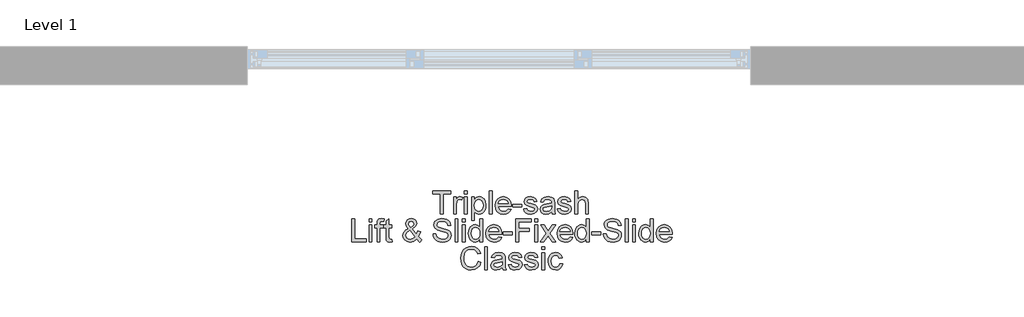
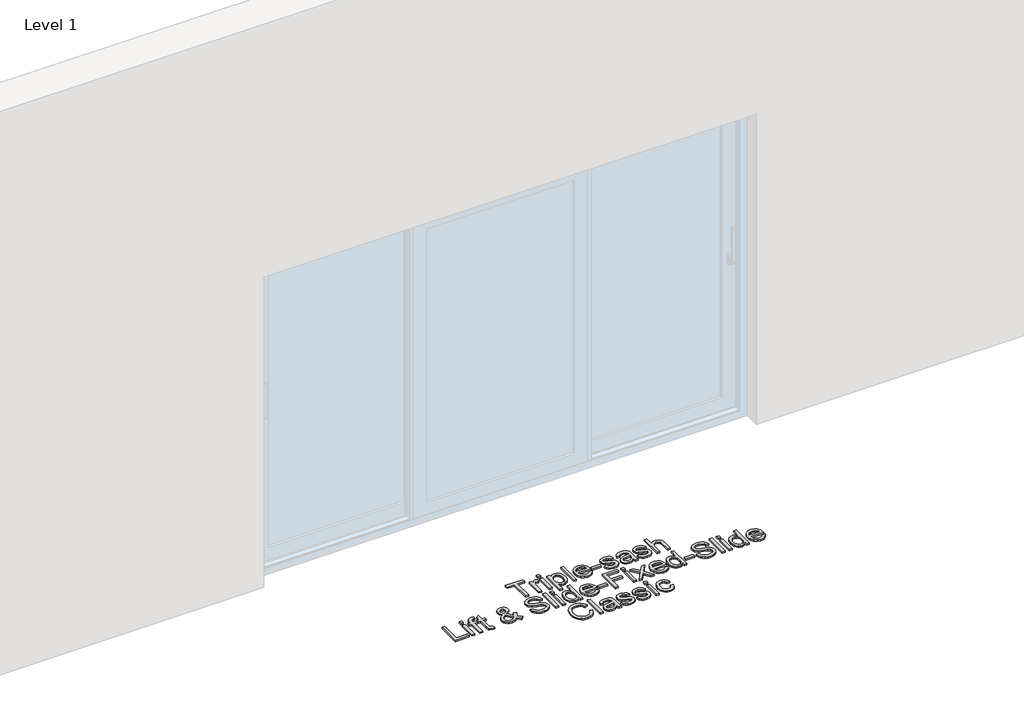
# One storey, part 13 of 17: 1 proxy.
"""IFC4 building model written with IfcOpenShell, lengths in millimetres."""

from ifc_helpers import new_model, si_unit, origin, origin_with_axes, place, context, project, spatial, polyline, outline, extrude, element, save

model = new_model("IFC4")

# Units and contexts
model_context = context("Model", 3, world=origin())
ifc_project = project(units=[si_unit("LENGTHUNIT", "METRE", prefix="MILLI")], contexts=[model_context])

# Site, building, storey
site = spatial("IfcSite", under=ifc_project)
building = spatial("IfcBuilding", under=site)
storey = spatial("IfcBuildingStorey", under=building, Name="Level 1", Elevation=0.0)

# Proxy
placement = place(None, origin())
element("IfcBuildingElementProxy", 1, Name="150mm Arial", ObjectType="150mm Arial", at=placement, inside=storey, context=model_context, shape_type="SweptSolid", body=[
    extrude(outline(polyline([(17344.4318001, -991.3626427), (17344.4318001, -859.5137356), (17294.98846, -859.5137356), (17294.98846, -840.6781775), (17412.7106984, -840.6781775), (17412.7106984, -859.5137356), (17363.2673583, -859.5137356), (17363.2673583, -991.3626427), (17344.4318001, -991.3626427)])), origin_with_axes(), (0.0, 0.0, 1.0), 10.0),
    extrude(outline(polyline([(17431.5462566, -991.3626427), (17431.5462566, -880.7037385), (17448.02737, -880.7037385), (17448.02737, -897.0744873), (17459.7260174, -881.9913255), (17471.4982413, -878.3492938), (17490.4073758, -884.1618293), (17484.1165937, -901.0476129), (17470.8728419, -897.1848519), (17460.2226581, -900.9004601), (17453.4352353, -911.2011559), (17450.3818147, -933.2004992), (17450.3818147, -991.3626427), (17431.5462566, -991.3626427)])), origin_with_axes(), (0.0, 0.0, 1.0), 10.0),
    extrude(outline(polyline([(17502.1795997, -859.5137356), (17502.1795997, -840.6781775), (17521.0151578, -840.6781775), (17521.0151578, -859.5137356), (17502.1795997, -859.5137356)])), origin_with_axes(), (0.0, 0.0, 1.0), 10.0),
    extrude(outline(polyline([(17502.1795997, -991.3626427), (17502.1795997, -880.7037385), (17521.0151578, -880.7037385), (17521.0151578, -991.3626427), (17502.1795997, -991.3626427)])), origin_with_axes(), (0.0, 0.0, 1.0), 10.0),
    extrude(outline(polyline([(17549.268495, -1033.7426485), (17549.268495, -880.7037385), (17568.1040532, -880.7037385), (17568.1040532, -899.1714147), (17581.1270758, -883.554824), (17598.7118352, -878.3492938), (17611.4497493, -880.1703096), (17622.5873767, -885.6333573), (17631.6556679, -894.4073429), (17638.1855733, -906.1611726), (17643.4462858, -935.187062), (17641.9609623, -951.2956949), (17637.5049916, -965.7028735), (17630.2209281, -977.6774325), (17620.251326, -986.4882062), (17608.6400505, -991.9098671), (17596.4309668, -993.7170875), (17580.0418239, -988.8794392), (17568.1040532, -976.6473629), (17568.1040532, -1033.7426485), (17549.268495, -1033.7426485)]), holes=[polyline([(17568.1040532, -936.9161074), (17570.1411997, -953.801891), (17576.2526394, -965.610903), (17585.2703468, -972.5638727), (17596.0262966, -974.8815293), (17606.9569904, -972.4810993), (17616.2046241, -965.2798092), (17622.5092018, -953.0385358), (17624.6107277, -935.5181558), (17622.5597855, -918.7243427), (17616.4069592, -906.7497838), (17607.4030473, -899.5760849), (17596.7988488, -897.1848519), (17586.1532636, -899.7278362), (17576.8044624, -907.3567891), (17570.2791555, -919.8325872), (17568.1040532, -936.9161074)])]), origin_with_axes(), (0.0, 0.0, 1.0), 10.0),
    extrude(outline(polyline([(17664.6362887, -991.3626427), (17664.6362887, -840.6781775), (17683.4718469, -840.6781775), (17683.4718469, -991.3626427), (17664.6362887, -991.3626427)])), origin_with_axes(), (0.0, 0.0, 1.0), 10.0),
    extrude(outline(polyline([(17789.2011323, -958.4004159), (17807.6688085, -960.7548607), (17801.0147429, -974.6699972), (17790.3967488, -985.0718606), (17776.0539495, -991.5557807), (17758.2254683, -993.7170875), (17736.1249574, -989.9876837), (17719.1196122, -978.7994725), (17708.2762904, -960.8790209), (17704.6618498, -936.9528956), (17708.3130786, -912.2220285), (17719.266765, -893.7267612), (17736.042184, -882.1936606), (17757.1586105, -878.3492938), (17777.617448, -882.1844636), (17793.9652041, -893.689973), (17804.6843658, -912.1484521), (17808.2574197, -936.842531), (17808.1470551, -941.9193025), (17723.497408, -941.9193025), (17726.7577621, -956.01838), (17734.3315327, -966.3834552), (17745.2622265, -972.7570108), (17758.5933503, -974.8815293), (17777.0610265, -970.9451919), (17789.2011323, -958.4004159)]), holes=[polyline([(17723.497408, -923.0837444), (17789.4218615, -923.0837444), (17786.8742787, -913.1325364), (17781.8802806, -906.0140198), (17770.899003, -899.3921439), (17757.0850341, -897.1848519), (17744.3885068, -898.946087), (17733.8900743, -904.2297921), (17726.5922152, -912.4657503), (17723.497408, -923.0837444)])]), origin_with_axes(), (0.0, 0.0, 1.0), 10.0),
    extrude(outline(polyline([(17817.6751987, -946.6281921), (17817.6751987, -927.7926339), (17876.536318, -927.7926339), (17876.536318, -946.6281921), (17817.6751987, -946.6281921)])), origin_with_axes(), (0.0, 0.0, 1.0), 10.0),
    extrude(outline(polyline([(17890.6629866, -958.4004159), (17909.4985447, -956.0459711), (17912.4691918, -964.1025868), (17918.217348, -970.025487), (17938.1933403, -974.8815293), (17957.3967805, -970.4301572), (17963.6507744, -959.9823085), (17962.0780789, -955.1814485), (17957.3599923, -951.5210226), (17937.9726112, -946.1499455), (17909.6089093, -936.9345015), (17897.2296802, -926.1739531), (17893.0174313, -910.9804267), (17896.4019457, -896.9457286), (17905.6357838, -886.2219685), (17917.6103427, -880.6485562), (17933.8155446, -878.3492938), (17956.7345929, -882.0465078), (17971.3027199, -892.0528981), (17977.777443, -908.9570758), (17958.9418849, -911.3115205), (17951.8601565, -900.9188542), (17935.2870726, -897.1848519), (17917.2608548, -900.7533073), (17911.8529895, -909.0674404), (17914.0970697, -914.5488821), (17921.1236158, -918.7059486), (17937.3472118, -922.7158624), (17964.9935437, -931.5818185), (17977.8326253, -941.6249969), (17982.4863326, -957.9957457), (17977.0232849, -976.0219635), (17961.2595414, -989.1001684), (17937.935823, -993.7170875), (17918.943915, -991.4914014), (17905.0839608, -984.8143432), (17895.8317286, -973.7594892), (17890.6629866, -958.4004159)])), origin_with_axes(), (0.0, 0.0, 1.0), 10.0),
    extrude(outline(polyline([(18074.3096786, -977.2359741), (18056.0443375, -990.0014793), (18035.8660101, -993.7170875), (18020.1252592, -991.4822043), (18008.5139837, -984.777555), (18001.3540804, -974.5964208), (17998.967446, -961.9320831), (18002.5726895, -947.0328623), (18012.0456509, -936.2171316), (18025.2342204, -930.0367141), (18041.5313928, -927.2040227), (18074.199314, -920.7292996), (18074.3096786, -916.5354449), (18073.0128945, -908.1293413), (18069.1225424, -902.6295054), (18060.4221332, -898.5460153), (18048.3004215, -897.1848519), (18029.2441342, -900.8084896), (18020.1574489, -913.6659653), (18001.3218907, -911.3115205), (18009.4704769, -892.9174208), (18025.8780139, -882.1384783), (18050.7284427, -878.3492938), (18073.5555205, -881.6970199), (18086.4497844, -890.1031235), (18092.2255317, -902.8870228), (18093.1452367, -919.3681362), (18093.1452367, -942.8022193), (18094.1017299, -975.5253228), (18097.8541263, -991.3626427), (18079.0185681, -991.3626427), (18074.3096786, -977.2359741)]), holes=[polyline([(18074.3096786, -939.5648578), (18043.9226258, -945.3406051), (18027.7174239, -948.3940256), (18020.3781781, -953.3604326), (18017.8030041, -960.6077079), (18023.4132045, -970.7980392), (18039.8759238, -974.8815293), (18058.9322112, -970.3749749), (18071.2194698, -959.4672737), (18074.199314, -944.8991467), (18074.3096786, -939.5648578)])]), origin_with_axes(), (0.0, 0.0, 1.0), 10.0),
    extrude(outline(polyline([(18111.9807949, -958.4004159), (18130.816353, -956.0459711), (18133.7870001, -964.1025868), (18139.5351563, -970.025487), (18159.5111486, -974.8815293), (18178.7145888, -970.4301572), (18184.9685827, -959.9823085), (18183.3958872, -955.1814485), (18178.6778006, -951.5210226), (18159.2904195, -946.1499455), (18130.9267176, -936.9345015), (18118.5474885, -926.1739531), (18114.3352396, -910.9804267), (18117.719754, -896.9457286), (18126.9535921, -886.2219685), (18138.928151, -880.6485562), (18155.1333529, -878.3492938), (18178.0524012, -882.0465078), (18192.6205282, -892.0528981), (18199.0952513, -908.9570758), (18180.2596932, -911.3115205), (18173.1779648, -900.9188542), (18156.6048809, -897.1848519), (18138.5786631, -900.7533073), (18133.1707978, -909.0674404), (18135.414878, -914.5488821), (18142.4414241, -918.7059486), (18158.6650201, -922.7158624), (18186.311352, -931.5818185), (18199.1504336, -941.6249969), (18203.8041409, -957.9957457), (18198.3410932, -976.0219635), (18182.5773497, -989.1001684), (18159.2536313, -993.7170875), (18140.2617232, -991.4914014), (18126.4017691, -984.8143432), (18117.1495369, -973.7594892), (18111.9807949, -958.4004159)])), origin_with_axes(), (0.0, 0.0, 1.0), 10.0),
    extrude(outline(polyline([(18224.9941438, -991.3626427), (18224.9941438, -840.6781775), (18243.8297019, -840.6781775), (18243.8297019, -896.0812059), (18258.5173906, -882.7822718), (18276.6079877, -878.3492938), (18297.7612024, -883.186942), (18310.6002841, -896.5594525), (18314.463045, -921.3179108), (18314.463045, -991.3626427), (18295.6274869, -991.3626427), (18295.6274869, -923.2676854), (18294.1283677, -911.4770674), (18289.6310103, -903.4020576), (18282.383735, -898.7391533), (18272.6348622, -897.1848519), (18257.2022125, -901.3787067), (18246.9015166, -912.7462603), (18243.8297019, -932.5750999), (18243.8297019, -991.3626427), (18224.9941438, -991.3626427)])), origin_with_axes(), (0.0, 0.0, 1.0), 10.0),
    extrude(outline(polyline([(16765.2383869, -1174.3248694), (16765.2383869, -1023.6404042), (16784.0739451, -1023.6404042), (16784.0739451, -1155.4893113), (16859.4161777, -1155.4893113), (16859.4161777, -1174.3248694), (16765.2383869, -1174.3248694)])), origin_with_axes(), (0.0, 0.0, 1.0), 10.0),
    extrude(outline(polyline([(16878.2517358, -1042.4759624), (16878.2517358, -1023.6404042), (16897.087294, -1023.6404042), (16897.087294, -1042.4759624), (16878.2517358, -1042.4759624)])), origin_with_axes(), (0.0, 0.0, 1.0), 10.0),
    extrude(outline(polyline([(16878.2517358, -1174.3248694), (16878.2517358, -1063.6659653), (16897.087294, -1063.6659653), (16897.087294, -1174.3248694), (16878.2517358, -1174.3248694)])), origin_with_axes(), (0.0, 0.0, 1.0), 10.0),
    extrude(outline(polyline([(16930.0495208, -1174.3248694), (16930.0495208, -1082.5015235), (16913.5684074, -1082.5015235), (16913.5684074, -1063.6659653), (16930.0495208, -1063.6659653), (16930.0495208, -1052.5191408), (16932.0360835, -1036.8105797), (16941.6745918, -1025.5901788), (16960.6573028, -1021.2859595), (16977.8373919, -1023.3460986), (16975.078277, -1041.0044344), (16964.2257581, -1040.1215176), (16952.3615638, -1043.2485146), (16948.8850789, -1054.9103738), (16948.8850789, -1063.6659653), (16970.0750818, -1063.6659653), (16970.0750818, -1082.5015235), (16948.8850789, -1082.5015235), (16948.8850789, -1174.3248694), (16930.0495208, -1174.3248694)])), origin_with_axes(), (0.0, 0.0, 1.0), 10.0),
    extrude(outline(polyline([(17026.5817563, -1158.6163083), (17028.9362011, -1174.8766924), (17014.8463207, -1176.6793142), (16999.0641831, -1173.5523173), (16991.1915084, -1165.3485488), (16988.91064, -1143.9746048), (16988.91064, -1082.5015235), (16974.7839714, -1082.5015235), (16974.7839714, -1063.6659653), (16988.91064, -1063.6659653), (16988.91064, -1036.7737915), (17007.7461981, -1025.7005434), (17007.7461981, -1063.6659653), (17026.5817563, -1063.6659653), (17026.5817563, -1082.5015235), (17007.7461981, -1082.5015235), (17007.7461981, -1143.4227819), (17008.7394795, -1153.1348665), (17011.958447, -1156.5745632), (17018.3779878, -1157.8437561), (17026.5817563, -1158.6163083)])), origin_with_axes(), (0.0, 0.0, 1.0), 10.0),
    extrude(outline(polyline([(17190.6939143, -1155.7100405), (17170.717922, -1171.4369958), (17147.3574153, -1176.6793142), (17126.5720826, -1172.7981592), (17110.5692158, -1161.154694), (17102.3194621, -1147.7545923), (17099.5695441, -1132.8645686), (17101.7814346, -1119.666802), (17108.4171061, -1107.8118047), (17119.4489675, -1097.3087738), (17134.8494275, -1088.1669062), (17121.6976462, -1069.1106188), (17118.4051023, -1054.9839502), (17120.9986704, -1042.2644302), (17128.7793746, -1031.3291379), (17140.4872191, -1023.7967541), (17154.862208, -1021.2859595), (17168.5382212, -1023.6863895), (17179.4735135, -1030.8876795), (17186.6472124, -1041.4550898), (17189.0384454, -1053.9538806), (17187.2680133, -1064.4477145), (17181.956717, -1074.1506022), (17160.7115317, -1091.1835385), (17187.9715876, -1125.1390467), (17196.1017797, -1104.2801376), (17214.9373378, -1108.3636277), (17201.6200096, -1139.3760799), (17224.3551169, -1162.1847636), (17210.2284483, -1176.6793142), (17190.6939143, -1155.7100405)]), holes=[polyline([(17151.1833881, -1079.3009501), (17166.6712201, -1067.6206967), (17170.2028872, -1056.5290546), (17165.54918, -1044.7016484), (17153.9057148, -1040.1215176), (17142.0047323, -1044.6648602), (17137.2406604, -1055.7565024), (17138.8593412, -1062.6542898), (17143.7521718, -1070.3246294), (17151.1833881, -1079.3009501)]), polyline([(17178.0755619, -1142.1351949), (17144.4511476, -1100.1598592), (17123.7577853, -1115.9419968), (17118.4051023, -1130.362971), (17120.2353152, -1139.2473212), (17125.725954, -1148.4627652), (17134.573516, -1155.4985083), (17146.4744985, -1157.8437561), (17163.7833464, -1153.4659603), (17178.0755619, -1142.1351949)])]), origin_with_axes(), (0.0, 0.0, 1.0), 10.0),
    extrude(outline(polyline([(17297.3429048, -1122.5270845), (17316.1784629, -1122.5270845), (17322.2485158, -1141.3810368), (17337.0741602, -1153.3004134), (17359.6621147, -1157.8437561), (17379.3438015, -1154.4040594), (17392.0541244, -1144.9494921), (17396.2295851, -1132.3127456), (17393.1025881, -1120.5589159), (17380.3002947, -1112.0056595), (17352.8746919, -1104.8135665), (17323.3521618, -1095.5245461), (17307.3309009, -1081.5082421), (17302.0517943, -1062.7830485), (17303.6842706, -1051.7511872), (17308.5816997, -1041.4642869), (17316.6153228, -1032.7454836), (17327.6563812, -1026.4179133), (17355.5786246, -1021.2859595), (17385.3770662, -1026.6570366), (17396.7998021, -1033.2881095), (17405.2426939, -1042.4391742), (17410.5861799, -1053.5400134), (17412.7106984, -1066.0204101), (17393.8751403, -1066.0204101), (17390.4170495, -1054.7816151), (17383.2065624, -1046.6698171), (17371.9401763, -1041.7585925), (17356.3143886, -1040.1215176), (17340.3207188, -1041.7401984), (17329.3486383, -1046.5962407), (17323.0026739, -1053.7423485), (17320.8873524, -1062.2312255), (17322.3864716, -1069.4693038), (17326.883829, -1075.2910363), (17357.6387638, -1085.8124614), (17390.9688725, -1095.2670287), (17401.7064283, -1102.1004367), (17409.1974254, -1110.5341315), (17413.5982138, -1120.4761424), (17415.0651432, -1131.834499), (17413.3774846, -1143.4457745), (17408.3145086, -1154.3672712), (17400.083149, -1163.7666562), (17388.8903393, -1170.8115964), (17375.4304568, -1175.2123848), (17360.3978787, -1176.6793142), (17341.9439981, -1175.0974216), (17326.7550703, -1170.3517439), (17314.6563511, -1162.4238869), (17305.4730968, -1151.2954566), (17299.5777879, -1137.739005), (17297.3429048, -1122.5270845)])), origin_with_axes(), (0.0, 0.0, 1.0), 10.0),
    extrude(outline(polyline([(17440.9640357, -1174.3248694), (17440.9640357, -1023.6404042), (17459.7995938, -1023.6404042), (17459.7995938, -1174.3248694), (17440.9640357, -1174.3248694)])), origin_with_axes(), (0.0, 0.0, 1.0), 10.0),
    extrude(outline(polyline([(17488.0529311, -1042.4759624), (17488.0529311, -1023.6404042), (17506.8884892, -1023.6404042), (17506.8884892, -1042.4759624), (17488.0529311, -1042.4759624)])), origin_with_axes(), (0.0, 0.0, 1.0), 10.0),
    extrude(outline(polyline([(17488.0529311, -1174.3248694), (17488.0529311, -1063.6659653), (17506.8884892, -1063.6659653), (17506.8884892, -1174.3248694), (17488.0529311, -1174.3248694)])), origin_with_axes(), (0.0, 0.0, 1.0), 10.0),
    extrude(outline(polyline([(17603.4207247, -1174.3248694), (17603.4207247, -1156.5561691), (17590.9587222, -1171.6485279), (17573.7326477, -1176.6793142), (17561.5557537, -1174.8582983), (17550.4089292, -1169.3952507), (17540.9727561, -1160.6718489), (17533.9278158, -1149.0697705), (17529.5408231, -1135.058065), (17528.0784921, -1119.105782), (17533.4679634, -1089.1233994), (17540.2002039, -1077.2316139), (17549.6179829, -1068.4852194), (17561.0085292, -1063.1049453), (17573.6590713, -1061.3115205), (17591.0231015, -1066.4434744), (17603.4207247, -1079.7791967), (17603.4207247, -1023.6404042), (17622.2562829, -1023.6404042), (17622.2562829, -1174.3248694), (17603.4207247, -1174.3248694)]), holes=[polyline([(17546.9140503, -1119.0322056), (17549.0385688, -1136.0697405), (17555.4121244, -1148.1868537), (17564.6735536, -1155.4295305), (17575.4616931, -1157.8437561), (17586.2452341, -1155.5398951), (17595.2721385, -1148.6283121), (17601.3835782, -1136.9802484), (17603.4207247, -1120.4669454), (17601.34679, -1102.4131364), (17595.1249857, -1089.8959516), (17585.868155, -1082.5842969), (17574.6891409, -1080.1470787), (17563.7906368, -1082.4877279), (17554.8603014, -1089.5096755), (17548.9006131, -1101.5716064), (17546.9140503, -1119.0322056)])]), origin_with_axes(), (0.0, 0.0, 1.0), 10.0),
    extrude(outline(polyline([(17727.9855683, -1141.3626427), (17746.4532445, -1143.7170875), (17739.7991789, -1157.6322239), (17729.1811848, -1168.0340873), (17714.8383855, -1174.5180075), (17697.0099043, -1176.6793142), (17674.9093935, -1172.9499105), (17657.9040482, -1161.7616993), (17647.0607264, -1143.8412476), (17643.4462858, -1119.9151224), (17647.0975146, -1095.1842552), (17658.051201, -1076.6889879), (17674.82662, -1065.1558874), (17695.9430465, -1061.3115205), (17716.401884, -1065.1466903), (17732.7496401, -1076.6521997), (17743.4688018, -1095.1106788), (17747.0418557, -1119.8047578), (17746.9314911, -1124.8815293), (17662.281844, -1124.8815293), (17665.5421981, -1138.9806068), (17673.1159687, -1149.345682), (17684.0466625, -1155.7192375), (17697.3777863, -1157.8437561), (17715.8454625, -1153.9074187), (17727.9855683, -1141.3626427)]), holes=[polyline([(17662.281844, -1106.0459711), (17728.2062975, -1106.0459711), (17725.6587147, -1096.0947632), (17720.6647166, -1088.9762466), (17709.683439, -1082.3543707), (17695.8694701, -1080.1470787), (17683.1729428, -1081.9083137), (17672.6745103, -1087.1920189), (17665.3766513, -1095.4279771), (17662.281844, -1106.0459711)])]), origin_with_axes(), (0.0, 0.0, 1.0), 10.0),
    extrude(outline(polyline([(17756.4596347, -1129.5904188), (17756.4596347, -1110.7548607), (17815.320754, -1110.7548607), (17815.320754, -1129.5904188), (17756.4596347, -1129.5904188)])), origin_with_axes(), (0.0, 0.0, 1.0), 10.0),
    extrude(outline(polyline([(17838.8652017, -1174.3248694), (17838.8652017, -1023.6404042), (17940.1063267, -1023.6404042), (17940.1063267, -1042.4759624), (17857.7007598, -1042.4759624), (17857.7007598, -1087.210413), (17928.3341029, -1087.210413), (17928.3341029, -1106.0459711), (17857.7007598, -1106.0459711), (17857.7007598, -1174.3248694), (17838.8652017, -1174.3248694)])), origin_with_axes(), (0.0, 0.0, 1.0), 10.0),
    extrude(outline(polyline([(17963.6507744, -1042.4759624), (17963.6507744, -1023.6404042), (17982.4863326, -1023.6404042), (17982.4863326, -1042.4759624), (17963.6507744, -1042.4759624)])), origin_with_axes(), (0.0, 0.0, 1.0), 10.0),
    extrude(outline(polyline([(17963.6507744, -1174.3248694), (17963.6507744, -1063.6659653), (17982.4863326, -1063.6659653), (17982.4863326, -1174.3248694), (17963.6507744, -1174.3248694)])), origin_with_axes(), (0.0, 0.0, 1.0), 10.0),
    extrude(outline(polyline([(17998.967446, -1174.3248694), (18039.2137362, -1118.7011118), (18001.3218907, -1063.6659653), (18023.9834216, -1063.6659653), (18042.2671568, -1090.153469), (18050.8020191, -1102.6614568), (18058.1964472, -1092.4343373), (18079.0185681, -1063.6659653), (18101.680099, -1063.6659653), (18061.8752671, -1118.7011118), (18100.208571, -1174.3248694), (18077.5470401, -1174.3248694), (18054.480839, -1140.8843961), (18050.2501961, -1134.777555), (18021.6289769, -1174.3248694), (17998.967446, -1174.3248694)])), origin_with_axes(), (0.0, 0.0, 1.0), 10.0),
    extrude(outline(polyline([(18194.1656326, -1141.3626427), (18212.6333088, -1143.7170875), (18205.9792432, -1157.6322239), (18195.3612491, -1168.0340873), (18181.0184498, -1174.5180075), (18163.1899686, -1176.6793142), (18141.0894577, -1172.9499105), (18124.0841125, -1161.7616993), (18113.2407907, -1143.8412476), (18109.6263501, -1119.9151224), (18113.2775789, -1095.1842552), (18124.2312653, -1076.6889879), (18141.0066843, -1065.1558874), (18162.1231108, -1061.3115205), (18182.5819483, -1065.1466903), (18198.9297044, -1076.6521997), (18209.6488661, -1095.1106788), (18213.2219199, -1119.8047578), (18213.1115553, -1124.8815293), (18128.4619083, -1124.8815293), (18131.7222624, -1138.9806068), (18139.296033, -1149.345682), (18150.2267268, -1155.7192375), (18163.5578506, -1157.8437561), (18182.0255268, -1153.9074187), (18194.1656326, -1141.3626427)]), holes=[polyline([(18128.4619083, -1106.0459711), (18194.3863618, -1106.0459711), (18191.838779, -1096.0947632), (18186.8447809, -1088.9762466), (18175.8635033, -1082.3543707), (18162.0495344, -1080.1470787), (18149.3530071, -1081.9083137), (18138.8545746, -1087.1920189), (18131.5567155, -1095.4279771), (18128.4619083, -1106.0459711)])]), origin_with_axes(), (0.0, 0.0, 1.0), 10.0),
    extrude(outline(polyline([(18300.3363764, -1174.3248694), (18300.3363764, -1156.5561691), (18287.8743738, -1171.6485279), (18270.6482994, -1176.6793142), (18258.4714053, -1174.8582983), (18247.3245809, -1169.3952507), (18237.8884077, -1160.6718489), (18230.8434675, -1149.0697705), (18226.4564747, -1135.058065), (18224.9941438, -1119.105782), (18230.383615, -1089.1233994), (18237.1158555, -1077.2316139), (18246.5336346, -1068.4852194), (18257.9241809, -1063.1049453), (18270.574723, -1061.3115205), (18287.9387532, -1066.4434744), (18300.3363764, -1079.7791967), (18300.3363764, -1023.6404042), (18319.1719346, -1023.6404042), (18319.1719346, -1174.3248694), (18300.3363764, -1174.3248694)]), holes=[polyline([(18243.8297019, -1119.0322056), (18245.9542205, -1136.0697405), (18252.327776, -1148.1868537), (18261.5892053, -1155.4295305), (18272.3773448, -1157.8437561), (18283.1608858, -1155.5398951), (18292.1877902, -1148.6283121), (18298.2992299, -1136.9802484), (18300.3363764, -1120.4669454), (18298.2624417, -1102.4131364), (18292.0406374, -1089.8959516), (18282.7838067, -1082.5842969), (18271.6047926, -1080.1470787), (18260.7062885, -1082.4877279), (18251.775953, -1089.5096755), (18245.8162647, -1101.5716064), (18243.8297019, -1119.0322056)])]), origin_with_axes(), (0.0, 0.0, 1.0), 10.0),
    extrude(outline(polyline([(18338.0074927, -1129.5904188), (18338.0074927, -1110.7548607), (18396.8686119, -1110.7548607), (18396.8686119, -1129.5904188), (18338.0074927, -1129.5904188)])), origin_with_axes(), (0.0, 0.0, 1.0), 10.0),
    extrude(outline(polyline([(18413.3497253, -1122.5270845), (18432.1852835, -1122.5270845), (18438.2553364, -1141.3810368), (18453.0809808, -1153.3004134), (18475.6689353, -1157.8437561), (18495.350622, -1154.4040594), (18508.060945, -1144.9494921), (18512.2364056, -1132.3127456), (18509.1094087, -1120.5589159), (18496.3071152, -1112.0056595), (18468.8815125, -1104.8135665), (18439.3589824, -1095.5245461), (18423.3377215, -1081.5082421), (18418.0586149, -1062.7830485), (18419.6910912, -1051.7511872), (18424.5885203, -1041.4642869), (18432.6221433, -1032.7454836), (18443.6632017, -1026.4179133), (18471.5854452, -1021.2859595), (18501.3838868, -1026.6570366), (18512.8066227, -1033.2881095), (18521.2495145, -1042.4391742), (18526.5930005, -1053.5400134), (18528.717519, -1066.0204101), (18509.8819609, -1066.0204101), (18506.4238701, -1054.7816151), (18499.213383, -1046.6698171), (18487.9469969, -1041.7585925), (18472.3212091, -1040.1215176), (18456.3275394, -1041.7401984), (18445.3554589, -1046.5962407), (18439.0094945, -1053.7423485), (18436.894173, -1062.2312255), (18438.3932921, -1069.4693038), (18442.8906495, -1075.2910363), (18473.6455843, -1085.8124614), (18506.9756931, -1095.2670287), (18517.7132488, -1102.1004367), (18525.204246, -1110.5341315), (18529.6050343, -1120.4761424), (18531.0719638, -1131.834499), (18529.3843051, -1143.4457745), (18524.3213292, -1154.3672712), (18516.0899695, -1163.7666562), (18504.8971598, -1170.8115964), (18491.4372773, -1175.2123848), (18476.4046993, -1176.6793142), (18457.9508187, -1175.0974216), (18442.7618908, -1170.3517439), (18430.6631717, -1162.4238869), (18421.4799174, -1151.2954566), (18415.5846084, -1137.739005), (18413.3497253, -1122.5270845)])), origin_with_axes(), (0.0, 0.0, 1.0), 10.0),
    extrude(outline(polyline([(18556.9708562, -1174.3248694), (18556.9708562, -1023.6404042), (18575.8064144, -1023.6404042), (18575.8064144, -1174.3248694), (18556.9708562, -1174.3248694)])), origin_with_axes(), (0.0, 0.0, 1.0), 10.0),
    extrude(outline(polyline([(18604.0597516, -1042.4759624), (18604.0597516, -1023.6404042), (18622.8953098, -1023.6404042), (18622.8953098, -1042.4759624), (18604.0597516, -1042.4759624)])), origin_with_axes(), (0.0, 0.0, 1.0), 10.0),
    extrude(outline(polyline([(18604.0597516, -1174.3248694), (18604.0597516, -1063.6659653), (18622.8953098, -1063.6659653), (18622.8953098, -1174.3248694), (18604.0597516, -1174.3248694)])), origin_with_axes(), (0.0, 0.0, 1.0), 10.0),
    extrude(outline(polyline([(18719.4275453, -1174.3248694), (18719.4275453, -1156.5561691), (18706.9655427, -1171.6485279), (18689.7394683, -1176.6793142), (18677.5625743, -1174.8582983), (18666.4157498, -1169.3952507), (18656.9795766, -1160.6718489), (18649.9346364, -1149.0697705), (18645.5476436, -1135.058065), (18644.0853127, -1119.105782), (18649.4747839, -1089.1233994), (18656.2070244, -1077.2316139), (18665.6248035, -1068.4852194), (18677.0153498, -1063.1049453), (18689.6658919, -1061.3115205), (18707.0299221, -1066.4434744), (18719.4275453, -1079.7791967), (18719.4275453, -1023.6404042), (18738.2631035, -1023.6404042), (18738.2631035, -1174.3248694), (18719.4275453, -1174.3248694)]), holes=[polyline([(18662.9208708, -1119.0322056), (18665.0453894, -1136.0697405), (18671.4189449, -1148.1868537), (18680.6803742, -1155.4295305), (18691.4685137, -1157.8437561), (18702.2520547, -1155.5398951), (18711.2789591, -1148.6283121), (18717.3903988, -1136.9802484), (18719.4275453, -1120.4669454), (18717.3536106, -1102.4131364), (18711.1318063, -1089.8959516), (18701.8749756, -1082.5842969), (18690.6959615, -1080.1470787), (18679.7974574, -1082.4877279), (18670.8671219, -1089.5096755), (18664.9074336, -1101.5716064), (18662.9208708, -1119.0322056)])]), origin_with_axes(), (0.0, 0.0, 1.0), 10.0),
    extrude(outline(polyline([(18843.9923889, -1141.3626427), (18862.460065, -1143.7170875), (18855.8059994, -1157.6322239), (18845.1880054, -1168.0340873), (18830.8452061, -1174.5180075), (18813.0167249, -1176.6793142), (18790.916214, -1172.9499105), (18773.9108688, -1161.7616993), (18763.067547, -1143.8412476), (18759.4531064, -1119.9151224), (18763.1043352, -1095.1842552), (18774.0580216, -1076.6889879), (18790.8334406, -1065.1558874), (18811.9498671, -1061.3115205), (18832.4087045, -1065.1466903), (18848.7564607, -1076.6521997), (18859.4756223, -1095.1106788), (18863.0486762, -1119.8047578), (18862.9383116, -1124.8815293), (18778.2886645, -1124.8815293), (18781.5490187, -1138.9806068), (18789.1227893, -1149.345682), (18800.0534831, -1155.7192375), (18813.3846069, -1157.8437561), (18831.852283, -1153.9074187), (18843.9923889, -1141.3626427)]), holes=[polyline([(18778.2886645, -1106.0459711), (18844.2131181, -1106.0459711), (18841.6655353, -1096.0947632), (18836.6715372, -1088.9762466), (18825.6902596, -1082.3543707), (18811.8762907, -1080.1470787), (18799.1797633, -1081.9083137), (18788.6813309, -1087.1920189), (18781.3834718, -1095.4279771), (18778.2886645, -1106.0459711)])]), origin_with_axes(), (0.0, 0.0, 1.0), 10.0),
    extrude(outline(polyline([(17591.6485009, -1303.7234777), (17610.484059, -1308.5795201), (17601.7928469, -1330.5282796), (17588.1536219, -1346.5633361), (17570.2377688, -1356.3719898), (17548.7166721, -1359.641541), (17526.8690801, -1357.1675346), (17509.5188455, -1349.7455153), (17496.2199113, -1337.6330006), (17486.5262208, -1321.0875079), (17480.6079192, -1301.6357474), (17478.635152, -1280.8044294), (17480.8654366, -1258.8326773), (17487.5562904, -1239.8591634), (17498.3582254, -1224.4862945), (17512.9217539, -1213.3164774), (17530.1938136, -1206.515259), (17549.1213422, -1204.2481862), (17569.7733178, -1207.1820451), (17586.8476409, -1215.9836219), (17599.8108827, -1230.1102905), (17608.1296143, -1249.019425), (17589.2940561, -1253.5075854), (17582.7641507, -1239.7717914), (17573.8430123, -1230.3494138), (17562.4202764, -1224.9001617), (17548.3855783, -1223.0837444), (17532.2079675, -1225.0978983), (17518.9182304, -1231.1403601), (17508.8336653, -1240.5765332), (17502.2715702, -1252.7718214), (17497.4707101, -1280.7676412), (17498.8916543, -1298.1684596), (17503.154487, -1313.2148332), (17510.4201564, -1325.3319464), (17520.8496109, -1333.9449836), (17533.3530002, -1339.090733), (17546.8404739, -1340.8059828), (17562.5628306, -1338.4699322), (17575.6640282, -1331.4617802), (17585.5554553, -1319.8551032), (17591.6485009, -1303.7234777)])), origin_with_axes(), (0.0, 0.0, 1.0), 10.0),
    extrude(outline(polyline([(17634.0285067, -1357.2870962), (17634.0285067, -1206.602631), (17652.8640649, -1206.602631), (17652.8640649, -1357.2870962), (17634.0285067, -1357.2870962)])), origin_with_axes(), (0.0, 0.0, 1.0), 10.0),
    extrude(outline(polyline([(17751.7507452, -1343.1604276), (17733.4854041, -1355.9259328), (17713.3070767, -1359.641541), (17697.5663258, -1357.4066579), (17685.9550504, -1350.7020085), (17678.795147, -1340.5208743), (17676.4085126, -1327.8565366), (17680.0137561, -1312.9573158), (17689.4867175, -1302.1415851), (17702.675287, -1295.9611676), (17718.9724594, -1293.1284763), (17751.6403806, -1286.6537531), (17751.7507452, -1282.4598984), (17750.4539612, -1274.0537948), (17746.5636091, -1268.553959), (17737.8631999, -1264.4704688), (17725.7414881, -1263.1093055), (17706.6852008, -1266.7329431), (17697.5985155, -1279.5904188), (17678.7629574, -1277.2359741), (17686.9115435, -1258.8418743), (17703.3190805, -1248.0629318), (17728.1695093, -1244.2737473), (17750.9965871, -1247.6214735), (17763.890851, -1256.027577), (17769.6665984, -1268.8114764), (17770.5863033, -1285.2925898), (17770.5863033, -1308.7266729), (17771.5427965, -1341.4497763), (17775.2951929, -1357.2870962), (17756.4596347, -1357.2870962), (17751.7507452, -1343.1604276)]), holes=[polyline([(17751.7507452, -1305.4893113), (17721.3636924, -1311.2650586), (17705.1584905, -1314.3184792), (17697.8192447, -1319.2848861), (17695.2440707, -1326.5321614), (17700.8542712, -1336.7224927), (17717.3169904, -1340.8059828), (17736.3732778, -1336.2994284), (17748.6605364, -1325.3917272), (17751.6403806, -1310.8236002), (17751.7507452, -1305.4893113)])]), origin_with_axes(), (0.0, 0.0, 1.0), 10.0),
    extrude(outline(polyline([(17789.4218615, -1324.3248694), (17808.2574197, -1321.9704247), (17811.2280668, -1330.0270404), (17816.9762229, -1335.9499405), (17836.9522153, -1340.8059828), (17856.1556554, -1336.3546107), (17862.4096493, -1325.906762), (17860.8369538, -1321.105902), (17856.1188672, -1317.4454761), (17836.7314861, -1312.074399), (17808.3677843, -1302.858955), (17795.9885551, -1292.0984067), (17791.7763063, -1276.9048803), (17795.1608206, -1262.8701822), (17804.3946587, -1252.146422), (17816.3692176, -1246.5730098), (17832.5744195, -1244.2737473), (17855.4934678, -1247.9709614), (17870.0615948, -1257.9773516), (17876.536318, -1274.8815293), (17857.7007598, -1277.2359741), (17850.6190314, -1266.8433077), (17834.0459475, -1263.1093055), (17816.0197298, -1266.6777608), (17810.6118644, -1274.9918939), (17812.8559446, -1280.4733356), (17819.8824907, -1284.6304022), (17836.1060867, -1288.6403159), (17863.7524186, -1297.506272), (17876.5915003, -1307.5494505), (17881.2452075, -1323.9201993), (17875.7821599, -1341.946417), (17860.0184164, -1355.0246219), (17836.6946979, -1359.641541), (17817.7027899, -1357.4158549), (17803.8428357, -1350.7387967), (17794.5906035, -1339.6839427), (17789.4218615, -1324.3248694)])), origin_with_axes(), (0.0, 0.0, 1.0), 10.0),
    extrude(outline(polyline([(17895.3718761, -1324.3248694), (17914.2074343, -1321.9704247), (17917.1780814, -1330.0270404), (17922.9262375, -1335.9499405), (17942.9022299, -1340.8059828), (17962.10567, -1336.3546107), (17968.359664, -1325.906762), (17966.7869684, -1321.105902), (17962.0688818, -1317.4454761), (17942.6815007, -1312.074399), (17914.3177989, -1302.858955), (17901.9385697, -1292.0984067), (17897.7263209, -1276.9048803), (17901.1108352, -1262.8701822), (17910.3446733, -1252.146422), (17922.3192323, -1246.5730098), (17938.5244341, -1244.2737473), (17961.4434824, -1247.9709614), (17976.0116095, -1257.9773516), (17982.4863326, -1274.8815293), (17963.6507744, -1277.2359741), (17956.569046, -1266.8433077), (17939.9959621, -1263.1093055), (17921.9697444, -1266.6777608), (17916.561879, -1274.9918939), (17918.8059592, -1280.4733356), (17925.8325053, -1284.6304022), (17942.0561013, -1288.6403159), (17969.7024332, -1297.506272), (17982.5415149, -1307.5494505), (17987.1952221, -1323.9201993), (17981.7321745, -1341.946417), (17965.968431, -1355.0246219), (17942.6447125, -1359.641541), (17923.6528045, -1357.4158549), (17909.7928503, -1350.7387967), (17900.5406181, -1339.6839427), (17895.3718761, -1324.3248694)])), origin_with_axes(), (0.0, 0.0, 1.0), 10.0),
    extrude(outline(polyline([(18008.385225, -1225.4381891), (18008.385225, -1206.602631), (18027.2207832, -1206.602631), (18027.2207832, -1225.4381891), (18008.385225, -1225.4381891)])), origin_with_axes(), (0.0, 0.0, 1.0), 10.0),
    extrude(outline(polyline([(18008.385225, -1357.2870962), (18008.385225, -1246.6281921), (18027.2207832, -1246.6281921), (18027.2207832, -1357.2870962), (18008.385225, -1357.2870962)])), origin_with_axes(), (0.0, 0.0, 1.0), 10.0),
    extrude(outline(polyline([(18126.1074635, -1317.2615351), (18144.9430216, -1319.6159799), (18139.6915062, -1336.3684063), (18129.8230716, -1349.0281454), (18116.2666201, -1356.9881921), (18099.9510536, -1359.641541), (18079.9152805, -1355.9397284), (18064.248106, -1344.8342907), (18054.1359497, -1326.8126714), (18050.7652309, -1302.3623143), (18052.2045692, -1285.6006909), (18056.5225841, -1271.0739506), (18063.7882535, -1259.3431135), (18074.0705553, -1250.9691996), (18086.3716095, -1245.9476104), (18099.6935362, -1244.2737473), (18115.609031, -1246.5730098), (18128.3331496, -1253.4707972), (18137.4612216, -1264.5992275), (18142.5885769, -1279.5904188), (18123.7530187, -1281.9448636), (18115.0158213, -1267.8365891), (18099.840689, -1263.1093055), (18087.6683935, -1265.4361591), (18078.0068926, -1272.4167199), (18071.7023149, -1284.4280671), (18069.600789, -1301.8472795), (18071.6563297, -1319.5010168), (18077.8229516, -1331.5537507), (18087.3097086, -1338.4929248), (18099.3256542, -1340.8059828), (18109.0791256, -1339.362046), (18117.0759605, -1335.0302355), (18122.8930946, -1327.7001868), (18126.1074635, -1317.2615351)])), origin_with_axes(), (0.0, 0.0, 1.0), 10.0),
])

save(model, "model.ifc")
